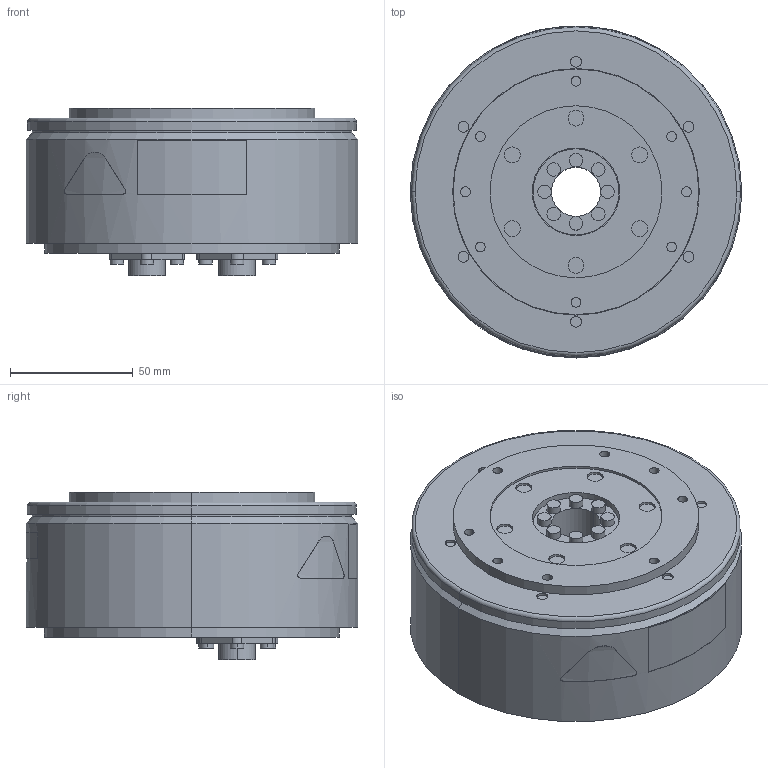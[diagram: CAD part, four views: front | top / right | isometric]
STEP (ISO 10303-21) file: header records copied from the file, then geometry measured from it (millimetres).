
FILE_DESCRIPTION (( 'STEP AP203' ), '1' );
FILE_NAME ('sgm7e_02b_a1_.STEP', '2016-06-02T07:38:37', ( '' ), ( '' ), 'SwSTEP 2.0', 'SolidWorks 2010', '' );
FILE_SCHEMA (( 'CONFIG_CONTROL_DESIGN' ));
Length unit declared in the file: millimetre
Products named in the file (1): sgm7e_02b_a1_
Bounding box: 135 x 135.1 x 68.1 mm (x, y, z)
Volume: 781419.1 mm3; surface area: 62253.6 mm2
Topology: 1 solids, 1 shells, 323 faces, 703 edges, 466 vertices
Faces by surface type: cylinder 180, plane 132, bspline 5, cone 4, torus 2
Entity records: 9686 total; most frequent: CARTESIAN_POINT 2158, DIRECTION 1707, ORIENTED_EDGE 1406, EDGE_CURVE 703, AXIS2_PLACEMENT_3D 701, VERTEX_POINT 466, EDGE_LOOP 409, CIRCLE 382
